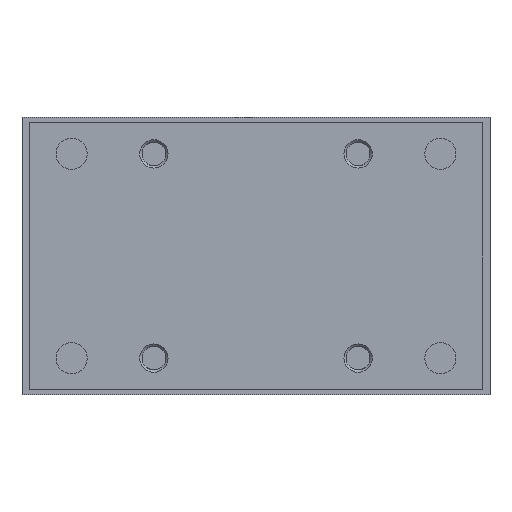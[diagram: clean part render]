
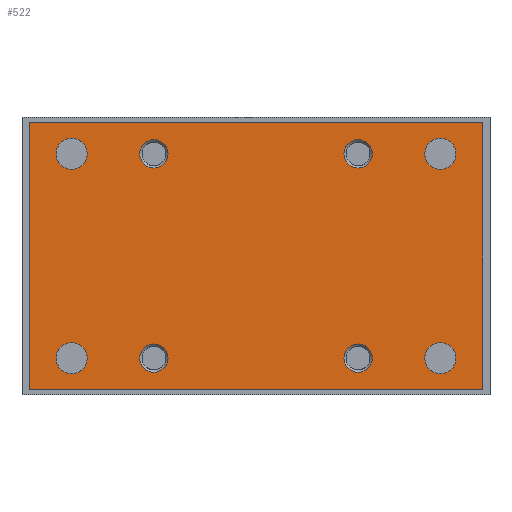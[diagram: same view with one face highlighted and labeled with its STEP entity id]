
A CAD part, left-side view. The second image highlights one B-rep face of the part: STEP entity #522.
In plain terms, the highlighted planar face has unit normal (-1, 0, 0).
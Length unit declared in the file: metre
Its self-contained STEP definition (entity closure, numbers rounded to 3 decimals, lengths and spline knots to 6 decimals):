
#522 = ADVANCED_FACE( '', ( #1261, #1262, #1263, #1264, #1265, #1266, #1267, #1268, #1269 ), #1270, .F. );
#1261 = FACE_BOUND( '', #2219, .T. );
#1262 = FACE_BOUND( '', #2220, .T. );
#1263 = FACE_BOUND( '', #2221, .T. );
#1264 = FACE_BOUND( '', #2222, .T. );
#1265 = FACE_BOUND( '', #2223, .T. );
#1266 = FACE_BOUND( '', #2224, .T. );
#1267 = FACE_BOUND( '', #2225, .T. );
#1268 = FACE_BOUND( '', #2226, .T. );
#1269 = FACE_OUTER_BOUND( '', #2227, .T. );
#1270 = PLANE( '', #2228 );
#2219 = EDGE_LOOP( '', ( #3592 ) );
#2220 = EDGE_LOOP( '', ( #3593 ) );
#2221 = EDGE_LOOP( '', ( #3594 ) );
#2222 = EDGE_LOOP( '', ( #3595 ) );
#2223 = EDGE_LOOP( '', ( #3596 ) );
#2224 = EDGE_LOOP( '', ( #3597 ) );
#2225 = EDGE_LOOP( '', ( #3598 ) );
#2226 = EDGE_LOOP( '', ( #3599 ) );
#2227 = EDGE_LOOP( '', ( #3600, #3601, #3602, #3603 ) );
#2228 = AXIS2_PLACEMENT_3D( '', #3604, #3605, #3606 );
#3592 = ORIENTED_EDGE( '', *, *, #4728, .T. );
#3593 = ORIENTED_EDGE( '', *, *, #4903, .T. );
#3594 = ORIENTED_EDGE( '', *, *, #4574, .T. );
#3595 = ORIENTED_EDGE( '', *, *, #4904, .T. );
#3596 = ORIENTED_EDGE( '', *, *, #4905, .T. );
#3597 = ORIENTED_EDGE( '', *, *, #4906, .F. );
#3598 = ORIENTED_EDGE( '', *, *, #4907, .F. );
#3599 = ORIENTED_EDGE( '', *, *, #4711, .T. );
#3600 = ORIENTED_EDGE( '', *, *, #4908, .T. );
#3601 = ORIENTED_EDGE( '', *, *, #4909, .T. );
#3602 = ORIENTED_EDGE( '', *, *, #4910, .T. );
#3603 = ORIENTED_EDGE( '', *, *, #4810, .T. );
#3604 = CARTESIAN_POINT( '', ( -0.107, -0.08, -0.096 ) );
#3605 = DIRECTION( '', ( 1., 0., 0. ) );
#3606 = DIRECTION( '', ( 0., 0., -1. ) );
#4574 = EDGE_CURVE( '', #5298, #5298, #5299, .T. );
#4711 = EDGE_CURVE( '', #5515, #5515, #5516, .T. );
#4728 = EDGE_CURVE( '', #5544, #5544, #5545, .T. );
#4810 = EDGE_CURVE( '', #5674, #5672, #5675, .T. );
#4903 = EDGE_CURVE( '', #5808, #5808, #5809, .T. );
#4904 = EDGE_CURVE( '', #5810, #5810, #5811, .T. );
#4905 = EDGE_CURVE( '', #5812, #5812, #5813, .T. );
#4906 = EDGE_CURVE( '', #5814, #5814, #5815, .T. );
#4907 = EDGE_CURVE( '', #5816, #5816, #5817, .T. );
#4908 = EDGE_CURVE( '', #5672, #5818, #5819, .T. );
#4909 = EDGE_CURVE( '', #5818, #5820, #5821, .T. );
#4910 = EDGE_CURVE( '', #5820, #5674, #5822, .T. );
#5298 = VERTEX_POINT( '', #6344 );
#5299 = CIRCLE( '', #6345, 0.0055 );
#5515 = VERTEX_POINT( '', #6676 );
#5516 = CIRCLE( '', #6677, 0.005 );
#5544 = VERTEX_POINT( '', #6738 );
#5545 = CIRCLE( '', #6739, 0.0055 );
#5672 = VERTEX_POINT( '', #6900 );
#5674 = VERTEX_POINT( '', #6903 );
#5675 = LINE( '', #6904, #6905 );
#5808 = VERTEX_POINT( '', #7135 );
#5809 = CIRCLE( '', #7136, 0.0055 );
#5810 = VERTEX_POINT( '', #7137 );
#5811 = CIRCLE( '', #7138, 0.0055 );
#5812 = VERTEX_POINT( '', #7139 );
#5813 = CIRCLE( '', #7140, 0.005 );
#5814 = VERTEX_POINT( '', #7141 );
#5815 = CIRCLE( '', #7142, 0.005 );
#5816 = VERTEX_POINT( '', #7143 );
#5817 = CIRCLE( '', #7144, 0.005 );
#5818 = VERTEX_POINT( '', #7145 );
#5819 = LINE( '', #7146, #7147 );
#5820 = VERTEX_POINT( '', #7148 );
#5821 = LINE( '', #7149, #7150 );
#5822 = LINE( '', #7151, #7152 );
#6344 = CARTESIAN_POINT( '', ( -0.107, -0.0595, -0.013 ) );
#6345 = AXIS2_PLACEMENT_3D( '', #7649, #7650, #7651 );
#6676 = CARTESIAN_POINT( '', ( -0.107, 0.036, -0.008 ) );
#6677 = AXIS2_PLACEMENT_3D( '', #7839, #7840, #7841 );
#6738 = CARTESIAN_POINT( '', ( -0.107, -0.0595, -0.085 ) );
#6739 = AXIS2_PLACEMENT_3D( '', #7872, #7873, #7874 );
#6900 = CARTESIAN_POINT( '', ( -0.107, -0.08, -0.096 ) );
#6903 = CARTESIAN_POINT( '', ( -0.107, 0.08, -0.096 ) );
#6904 = CARTESIAN_POINT( '', ( -0.107, 0.08, -0.096 ) );
#6905 = VECTOR( '', #7976, 1. );
#7135 = CARTESIAN_POINT( '', ( -0.107, 0.0705, -0.085 ) );
#7136 = AXIS2_PLACEMENT_3D( '', #8089, #8090, #8091 );
#7137 = CARTESIAN_POINT( '', ( -0.107, 0.0705, -0.013 ) );
#7138 = AXIS2_PLACEMENT_3D( '', #8092, #8093, #8094 );
#7139 = CARTESIAN_POINT( '', ( -0.107, -0.036, -0.09 ) );
#7140 = AXIS2_PLACEMENT_3D( '', #8095, #8096, #8097 );
#7141 = CARTESIAN_POINT( '', ( -0.107, 0.036, -0.09 ) );
#7142 = AXIS2_PLACEMENT_3D( '', #8098, #8099, #8100 );
#7143 = CARTESIAN_POINT( '', ( -0.107, -0.036, -0.008 ) );
#7144 = AXIS2_PLACEMENT_3D( '', #8101, #8102, #8103 );
#7145 = CARTESIAN_POINT( '', ( -0.107, -0.08, -0.002 ) );
#7146 = CARTESIAN_POINT( '', ( -0.107, -0.08, -0.096 ) );
#7147 = VECTOR( '', #8104, 1. );
#7148 = CARTESIAN_POINT( '', ( -0.107, 0.08, -0.002 ) );
#7149 = CARTESIAN_POINT( '', ( -0.107, -0.08, -0.002 ) );
#7150 = VECTOR( '', #8105, 1. );
#7151 = CARTESIAN_POINT( '', ( -0.107, 0.08, -0.002 ) );
#7152 = VECTOR( '', #8106, 1. );
#7649 = CARTESIAN_POINT( '', ( -0.107, -0.065, -0.013 ) );
#7650 = DIRECTION( '', ( 1., 0., 0. ) );
#7651 = DIRECTION( '', ( 0., 1., 0. ) );
#7839 = CARTESIAN_POINT( '', ( -0.107, 0.036, -0.013 ) );
#7840 = DIRECTION( '', ( 1., 0., 0. ) );
#7841 = DIRECTION( '', ( 0., 0., 1. ) );
#7872 = CARTESIAN_POINT( '', ( -0.107, -0.065, -0.085 ) );
#7873 = DIRECTION( '', ( 1., 0., 0. ) );
#7874 = DIRECTION( '', ( 0., 1., 0. ) );
#7976 = DIRECTION( '', ( 0., -1., 0. ) );
#8089 = CARTESIAN_POINT( '', ( -0.107, 0.065, -0.085 ) );
#8090 = DIRECTION( '', ( 1., 0., 0. ) );
#8091 = DIRECTION( '', ( 0., 1., 0. ) );
#8092 = CARTESIAN_POINT( '', ( -0.107, 0.065, -0.013 ) );
#8093 = DIRECTION( '', ( 1., 0., 0. ) );
#8094 = DIRECTION( '', ( 0., 1., 0. ) );
#8095 = CARTESIAN_POINT( '', ( -0.107, -0.036, -0.085 ) );
#8096 = DIRECTION( '', ( 1., 0., 0. ) );
#8097 = DIRECTION( '', ( 0., 0., -1. ) );
#8098 = CARTESIAN_POINT( '', ( -0.107, 0.036, -0.085 ) );
#8099 = DIRECTION( '', ( -1., 0., 0. ) );
#8100 = DIRECTION( '', ( 0., 0., -1. ) );
#8101 = CARTESIAN_POINT( '', ( -0.107, -0.036, -0.013 ) );
#8102 = DIRECTION( '', ( -1., 0., 0. ) );
#8103 = DIRECTION( '', ( 0., 0., 1. ) );
#8104 = DIRECTION( '', ( 0., 0., 1. ) );
#8105 = DIRECTION( '', ( 0., 1., 0. ) );
#8106 = DIRECTION( '', ( 0., 0., -1. ) );
